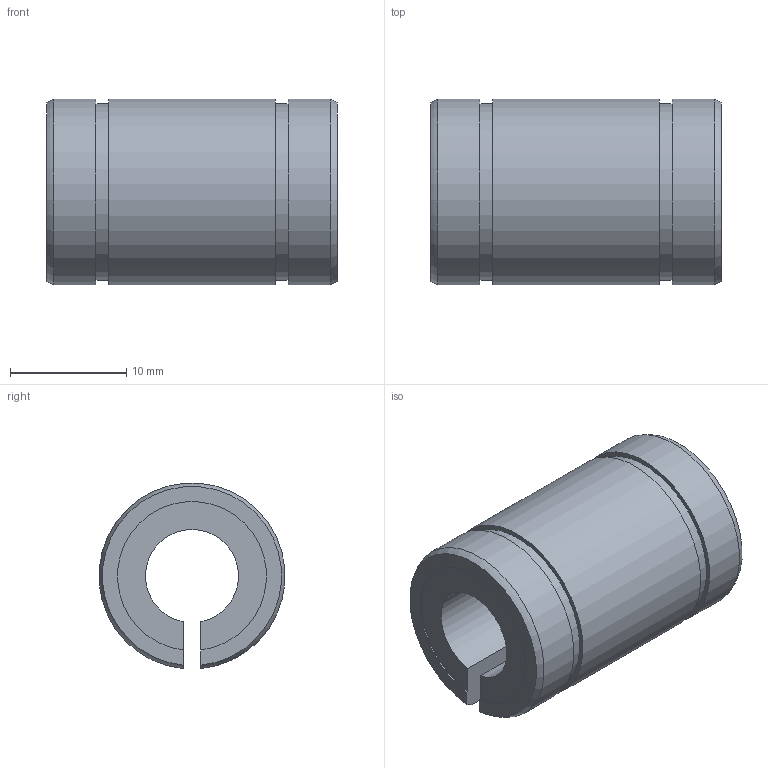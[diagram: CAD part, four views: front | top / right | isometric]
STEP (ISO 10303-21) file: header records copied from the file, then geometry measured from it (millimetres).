
FILE_DESCRIPTION((''),'2;1');
FILE_NAME('D:\製品 (図面)\カタログ用3D\リニアベアリング関連\STEP形式\LE-ADJ\LE8-ADJ.stp','2010-06-03T09:07:00',('Tsuchiya'),(''),'Autodesk Inventor 10','Autodesk Inventor 10','');
FILE_SCHEMA(('AUTOMOTIVE_DESIGN { 1 0 10303 214 1 1 1 1 }'));
Length unit declared in the file: millimetre
Products named in the file (1): LE8-ADJ
Bounding box: 25 x 15.94 x 15.93 mm (x, y, z)
Volume: 3554.3 mm3; surface area: 2348.2 mm2
Topology: 1 solids, 1 shells, 20 faces, 54 edges, 36 vertices
Faces by surface type: plane 10, cylinder 8, torus 2
Entity records: 675 total; most frequent: CARTESIAN_POINT 135, DIRECTION 110, ORIENTED_EDGE 108, EDGE_CURVE 54, AXIS2_PLACEMENT_3D 39, VERTEX_POINT 36, VECTOR 32, LINE 32
